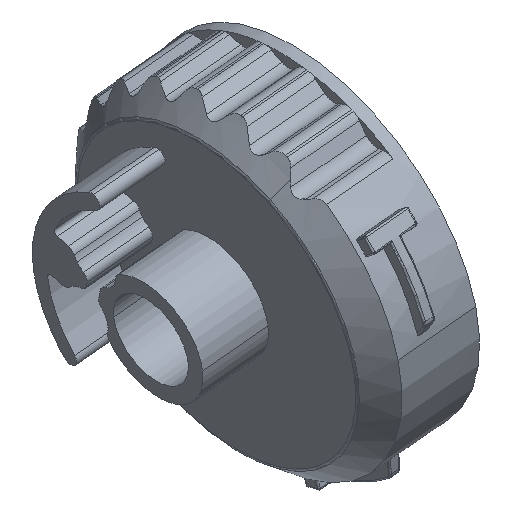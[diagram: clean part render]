
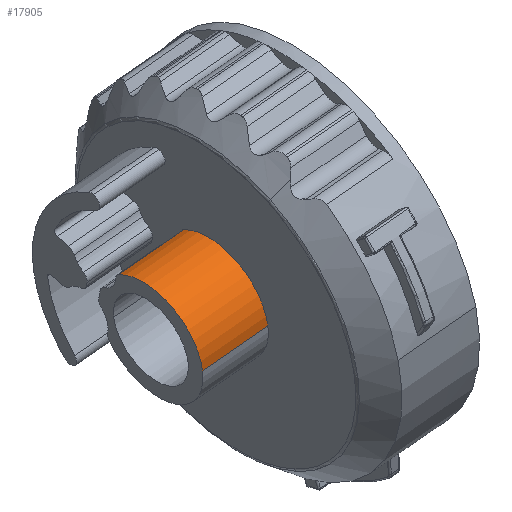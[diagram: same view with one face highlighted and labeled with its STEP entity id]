
A CAD part, isometric view. The second image highlights one B-rep face of the part: STEP entity #17905.
In plain terms, the highlighted cylindrical face has radius 7.25 mm (diameter 14.5 mm), a partial arc.
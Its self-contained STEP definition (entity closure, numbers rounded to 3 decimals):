
#17878=AXIS2_PLACEMENT_3D('Cylinder Axis2P3D',#17875,#17876,#17877) ;
#17882=AXIS2_PLACEMENT_3D('Circle Axis2P3D',#17880,#17881,$) ;
#17889=AXIS2_PLACEMENT_3D('Circle Axis2P3D',#17887,#17888,$) ;
#629=CARTESIAN_POINT('Vertex',(1112.091,-938.017,260.201)) ;
#632=CARTESIAN_POINT('Line Origine',(1107.725,-937.913,259.665)) ;
#636=CARTESIAN_POINT('Vertex',(1103.359,-937.808,259.128)) ;
#17875=CARTESIAN_POINT('Axis2P3D Location',(1107.898,-930.665,259.665)) ;
#17880=CARTESIAN_POINT('Axis2P3D Location',(1103.532,-930.56,259.128)) ;
#17884=CARTESIAN_POINT('Vertex',(1102.867,-926.776,265.277)) ;
#17887=CARTESIAN_POINT('Axis2P3D Location',(1112.264,-930.769,260.201)) ;
#17891=CARTESIAN_POINT('Vertex',(1111.599,-926.985,266.349)) ;
#17894=CARTESIAN_POINT('Line Origine',(1107.233,-926.881,265.813)) ;
#633=DIRECTION('Vector Direction',(-0.992,0.024,-0.122)) ;
#17876=DIRECTION('Axis2P3D Direction',(-0.992,0.024,-0.122)) ;
#17877=DIRECTION('Axis2P3D XDirection',(-0.024,-1.,0.)) ;
#17881=DIRECTION('Axis2P3D Direction',(-0.992,0.024,-0.122)) ;
#17888=DIRECTION('Axis2P3D Direction',(-0.992,0.024,-0.122)) ;
#17895=DIRECTION('Vector Direction',(-0.992,0.024,-0.122)) ;
#634=VECTOR('Line Direction',#633,1.) ;
#17896=VECTOR('Line Direction',#17895,1.) ;
#17900=ORIENTED_EDGE('',*,*,#17886,.F.) ;
#17901=ORIENTED_EDGE('',*,*,#638,.F.) ;
#17902=ORIENTED_EDGE('',*,*,#17893,.T.) ;
#17903=ORIENTED_EDGE('',*,*,#17898,.F.) ;
#17905=ADVANCED_FACE('\X2\96F64EF651E04F554F53\X0\',(#17904),#17879,.T.) ;
#17883=CIRCLE('generated circle',#17882,7.25) ;
#17890=CIRCLE('generated circle',#17889,7.25) ;
#17879=CYLINDRICAL_SURFACE('generated cylinder',#17878,7.25) ;
#638=EDGE_CURVE('',#630,#637,#635,.T.) ;
#17886=EDGE_CURVE('',#637,#17885,#17883,.T.) ;
#17893=EDGE_CURVE('',#630,#17892,#17890,.T.) ;
#17898=EDGE_CURVE('',#17885,#17892,#17897,.F.) ;
#17899=EDGE_LOOP('',(#17900,#17901,#17902,#17903)) ;
#17904=FACE_OUTER_BOUND('',#17899,.T.) ;
#635=LINE('Line',#632,#634) ;
#17897=LINE('Line',#17894,#17896) ;
#630=VERTEX_POINT('',#629) ;
#637=VERTEX_POINT('',#636) ;
#17885=VERTEX_POINT('',#17884) ;
#17892=VERTEX_POINT('',#17891) ;
